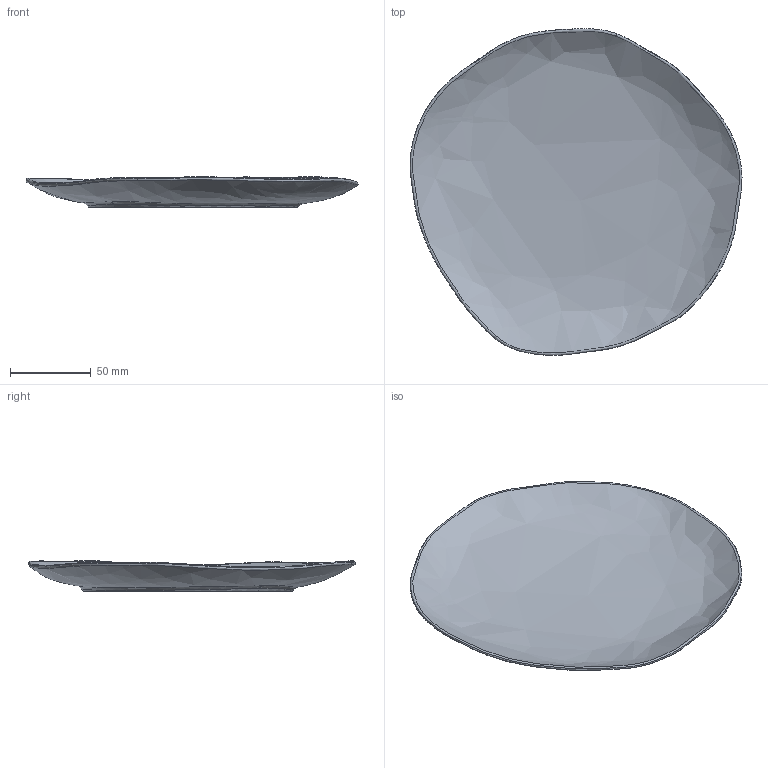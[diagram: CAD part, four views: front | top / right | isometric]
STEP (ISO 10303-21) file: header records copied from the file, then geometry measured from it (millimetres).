
FILE_DESCRIPTION(/* description */ (''),/* implementation_level */ '2;1');
FILE_NAME(/* name */ 'Native Dessert Plate',/* time_stamp */ '2024-05-22T16:36:05+02:00',/* author */ (''),/* organization */ (''),/* preprocessor_version */ 'ST-DEVELOPER v16.5',/* originating_system */ 'Rhino 7.37',/* authorisation */ '');
FILE_SCHEMA (('CONFIG_CONTROL_DESIGN'));
Length unit declared in the file: millimetre
Products named in the file (1): Document
Bounding box: 205.55 x 202.23 x 19.12 mm (x, y, z)
Volume: 66961 mm3; surface area: 69467.1 mm2
Topology: 1 solids, 1 shells, 16 faces, 32 edges, 20 vertices
Faces by surface type: bspline 16
Entity records: 14981 total; most frequent: CARTESIAN_POINT 14495, ORIENTED_EDGE 64, PCURVE 64, DEFINITIONAL_REPRESENTATION 64, B_SPLINE_CURVE_WITH_KNOTS 62, SURFACE_CURVE 32, EDGE_CURVE 32, VERTEX_POINT 20
